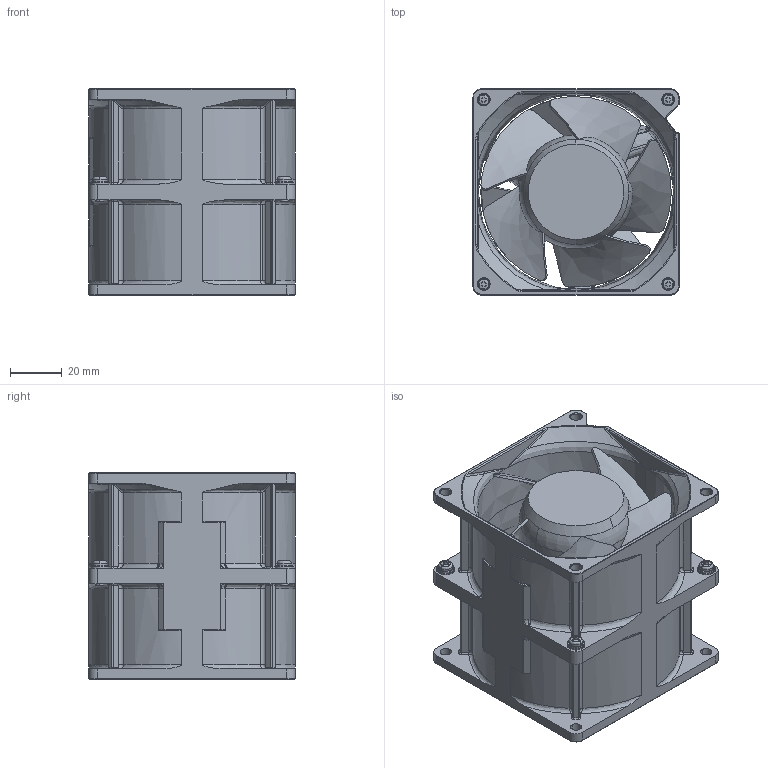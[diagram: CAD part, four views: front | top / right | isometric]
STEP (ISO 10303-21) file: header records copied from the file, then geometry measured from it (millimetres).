
FILE_DESCRIPTION (( 'STEP AP203' ), '1' );
FILE_NAME ('8080CRL RIBRESS.STEP', '2017-01-26T06:04:02', ( '' ), ( '' ), 'SwSTEP 2.0', 'SolidWorks 2016', '' );
FILE_SCHEMA (( 'CONFIG_CONTROL_DESIGN' ));
Products named in the file (1): 8080CRL RIBRESS
Bounding box: 80 x 80 x 80 mm (x, y, z)
Volume: 183071.1 mm3; surface area: 74672.6 mm2
Topology: 1 solids, 1 shells, 837 faces, 2136 edges, 1298 vertices
Faces by surface type: bspline 393, cylinder 252, plane 149, cone 30, torus 13
Entity records: 60254 total; most frequent: CARTESIAN_POINT 43829, ORIENTED_EDGE 4232, EDGE_CURVE 2116, DIRECTION 1968, VERTEX_POINT 1298, B_SPLINE_CURVE_WITH_KNOTS 1283, EDGE_LOOP 876, ADVANCED_FACE 837
